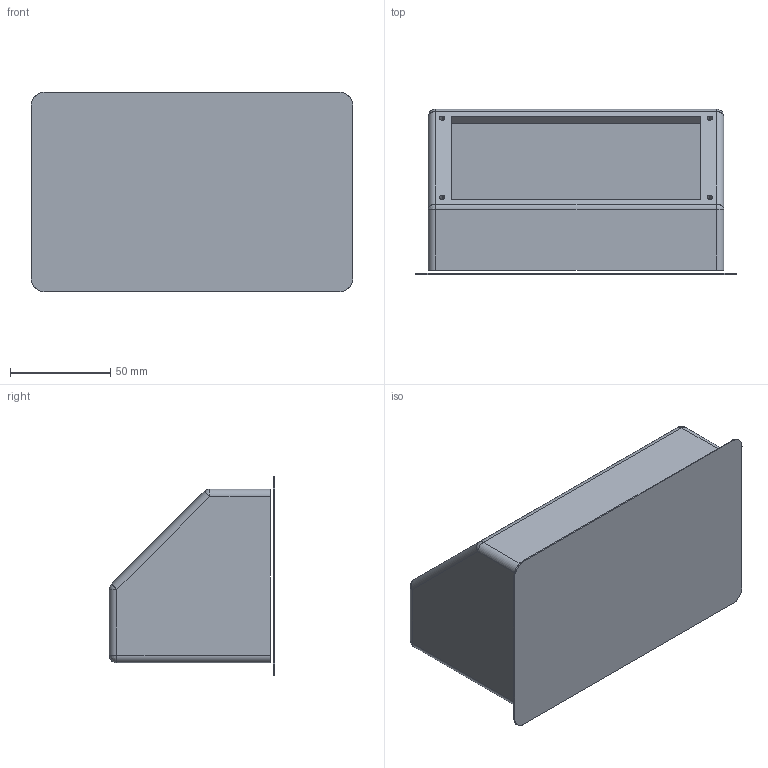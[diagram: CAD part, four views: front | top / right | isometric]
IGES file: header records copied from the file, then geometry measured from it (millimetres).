
Start section: SolidWorks IGES file using analytic representation for surfaces
Global section: file name: F:\Projects\M2\Revisions\VikiEnclosurePlusBuildBase.IGS; native system: SolidWorks 2014; preprocessor: SolidWorks 2014; author: epeterson; date: 151109.104003; units: inch
Bounding box: 160.02 x 82.41 x 99.29 mm (x, y, z)
Surface area: 110742 mm2 (no closed solid volume)
Topology: 0 solids, 0 shells, 514 faces, 4362 edges, 4356 vertices
Faces by surface type: bspline 436, revolution 78
